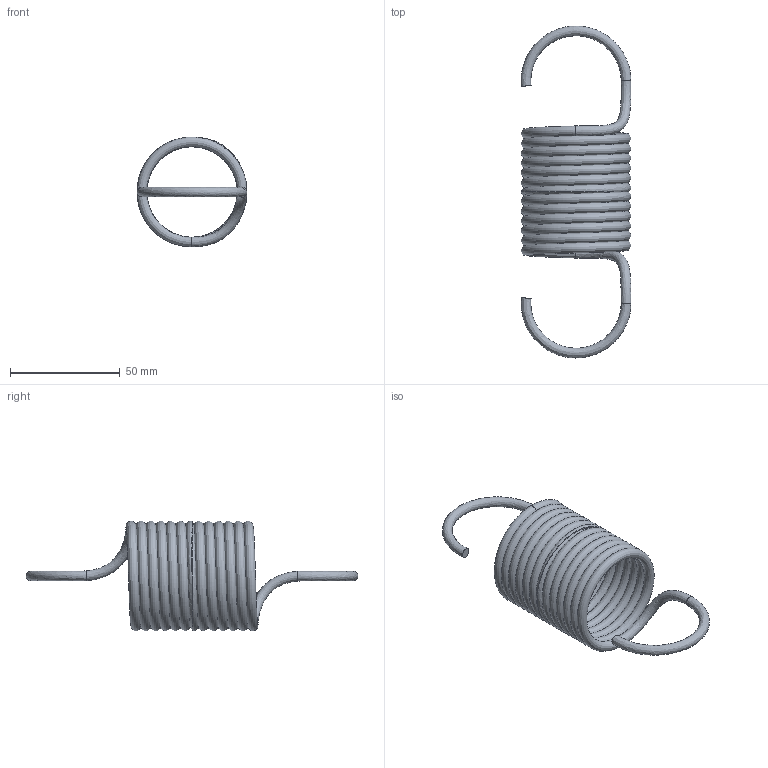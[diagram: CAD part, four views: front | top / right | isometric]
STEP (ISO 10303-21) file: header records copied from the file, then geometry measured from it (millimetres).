
FILE_DESCRIPTION(/* description */ ('451 | 2 77 | 0'),/* implementation_level */ '2;1');
FILE_NAME(/* name */ 'T12520.step',/* time_stamp */ '2026-10-05T10:04:59+02:00',/* author */ ('impex-ready.pl'),/* organization */ ('T12520'),/* preprocessor_version */ 'ST-DEVELOPER v20.1',/* originating_system */ 'Autodesk Inventor 2026',/* authorisation */ 'stal sprezynowa');
FILE_SCHEMA (('AUTOMOTIVE_DESIGN { 1 0 10303 214 3 1 1 }'));
Length unit declared in the file: millimetre
Products named in the file (1): T12520
Bounding box: 49.98 x 151 x 50 mm (x, y, z)
Volume: 31926.7 mm3; surface area: 28503.6 mm2
Topology: 1 solids, 1 shells, 10 faces, 32 edges, 20 vertices
Faces by surface type: bspline 6, plane 4
Entity records: 3146 total; most frequent: CARTESIAN_POINT 2858, ORIENTED_EDGE 64, DIRECTION 34, EDGE_CURVE 32, B_SPLINE_CURVE_WITH_KNOTS 20, VERTEX_POINT 20, AXIS2_PLACEMENT_3D 17, CIRCLE 12
